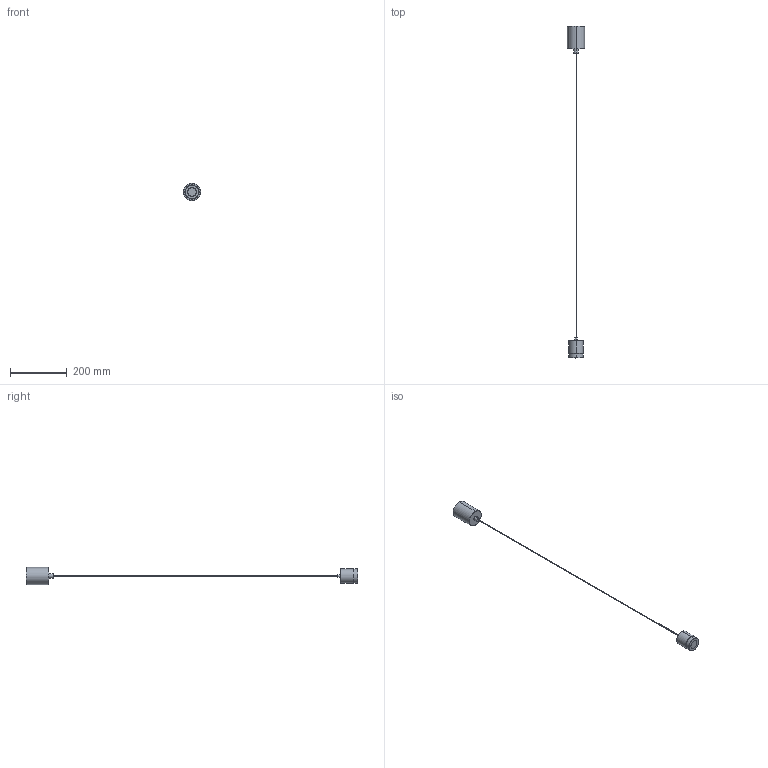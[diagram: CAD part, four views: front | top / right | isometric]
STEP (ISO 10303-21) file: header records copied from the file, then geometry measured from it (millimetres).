
FILE_DESCRIPTION (( 'STEP AP214' ), '1' );
FILE_NAME ('TEA_C1337.STEP', '2024-11-19T14:45:12', ( '' ), ( '' ), 'SwSTEP 2.0', 'SolidWorks 2018', '' );
FILE_SCHEMA (( 'AUTOMOTIVE_DESIGN' ));
Length unit declared in the file: millimetre
Products named in the file (3): TEA_C1337; regalo; estructura colgante simple
Assembly tree (2 placements, depth 2):
  TEA_C1337
    estructura colgante simple
    regalo
Bounding box: 60 x 1165.2 x 60 mm (x, y, z)
Volume: 325091.6 mm3; surface area: 55505.3 mm2
Topology: 6 solids, 7 shells, 39 faces, 64 edges, 40 vertices
Faces by surface type: cylinder 16, plane 15, torus 8
Entity records: 1066 total; most frequent: DIRECTION 200, CARTESIAN_POINT 148, ORIENTED_EDGE 128, AXIS2_PLACEMENT_3D 92, EDGE_CURVE 64, CIRCLE 48, EDGE_LOOP 40, VERTEX_POINT 40
